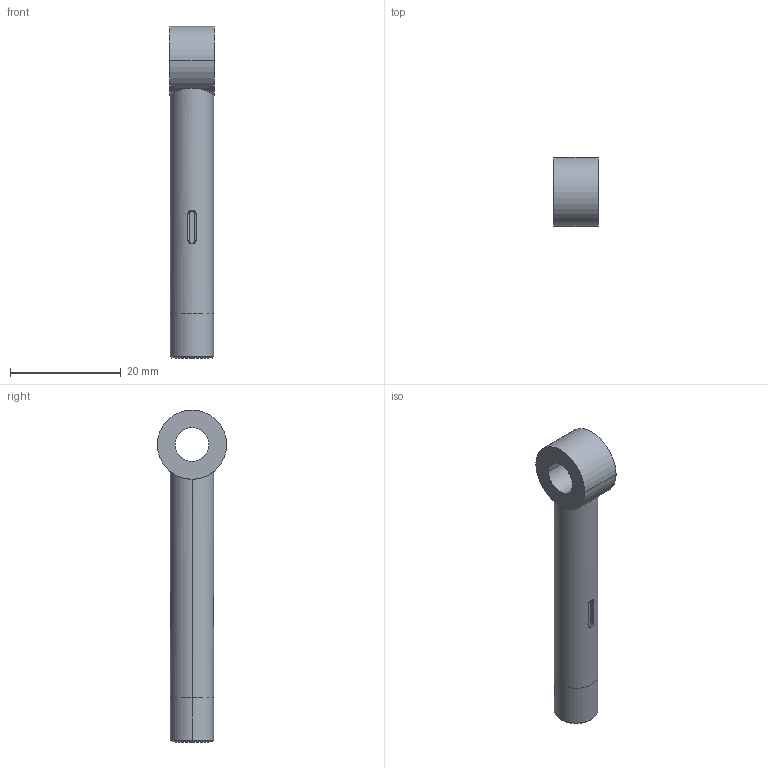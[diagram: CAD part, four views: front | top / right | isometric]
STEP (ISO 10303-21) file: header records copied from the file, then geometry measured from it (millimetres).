
FILE_DESCRIPTION(('CATIA V5 STEP Exchange'),'2;1');
FILE_NAME('G:\够快云库\系统集成开发部\1.部门成员\孙国\3D-stp打印件\1222\BPC0010160 阀杆.stp','2020-12-23T01:51:23+00:00',('none'),('none'),'CATIA Version 5 Release 20 GA (IN-10)','CATIA V5 STEP AP203','none');
FILE_SCHEMA(('CONFIG_CONTROL_DESIGN'));
Length unit declared in the file: millimetre
Products named in the file (1): 阀杆.1.1
Bounding box: 8 x 12.5 x 59.95 mm (x, y, z)
Volume: 2051.1 mm3; surface area: 2616.7 mm2
Topology: 1 solids, 1 shells, 82 faces, 194 edges, 114 vertices
Faces by surface type: cylinder 34, plane 24, bspline 12, torus 4, sphere 4, cone 4
Entity records: 2901 total; most frequent: CARTESIAN_POINT 1188, ORIENTED_EDGE 380, DIRECTION 260, EDGE_CURVE 190, AXIS2_PLACEMENT_3D 122, VERTEX_POINT 114, EDGE_LOOP 88, ADVANCED_FACE 82
